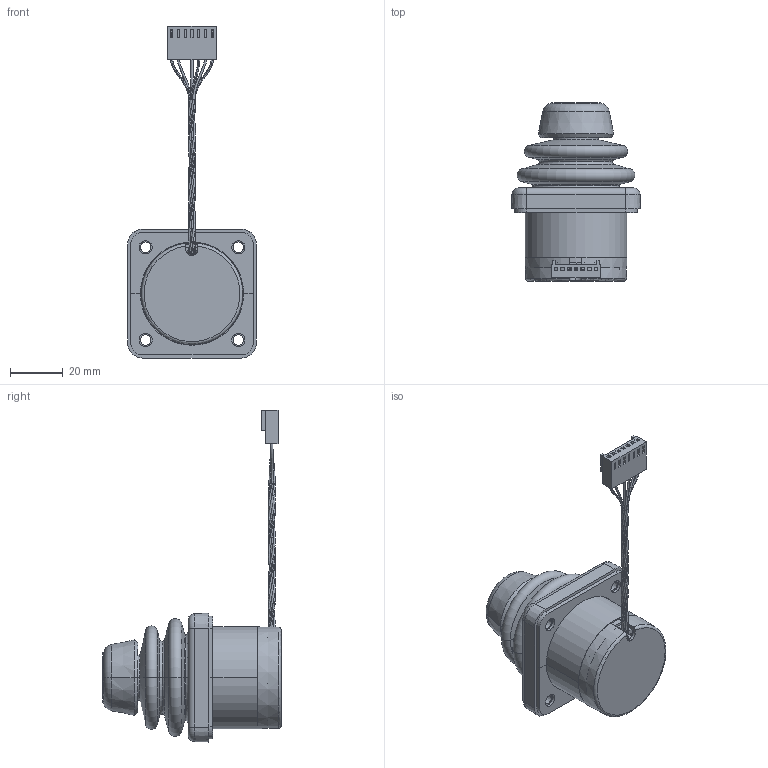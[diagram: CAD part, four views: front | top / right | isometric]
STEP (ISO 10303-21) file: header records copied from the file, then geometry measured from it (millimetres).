
FILE_DESCRIPTION(('FreeCAD Model'),'2;1');
FILE_NAME('Open CASCADE Shape Model','2025-11-17T13:10:17',(''),(''), 'Open CASCADE STEP processor 7.6','FreeCAD','Unknown');
FILE_SCHEMA(('AUTOMOTIVE_DESIGN { 1 0 10303 214 1 1 1 1 }'));
Length unit declared in the file: millimetre
Products named in the file (9): 848 Handle B; joystick_base; rubber_boot; square bezel 135890; end_cap; cable harness; wires; AM254-07H (Standard 848/844); handle B
Assembly tree (8 placements, depth 3):
  848 Handle B
    joystick_base
    rubber_boot
    square bezel 135890
    end_cap
    cable harness
      wires
      AM254-07H (Standard 848/844)
    handle B
Bounding box: 48.6 x 67.24 x 125.33 mm (x, y, z)
Volume: 22364.2 mm3; surface area: 40531.9 mm2
Topology: 17 solids, 19 shells, 758 faces, 3489 edges, 7353 vertices
Faces by surface type: plane 383, cylinder 175, cone 73, torus 73, bspline 38, sphere 16
Entity records: 54079 total; most frequent: CARTESIAN_POINT 22057, DIRECTION 6224, ORIENTED_EDGE 3940, AXIS2_PLACEMENT_3D 2304, EDGE_CURVE 1971, LINE 1616, VECTOR 1616, CIRCLE 1575
